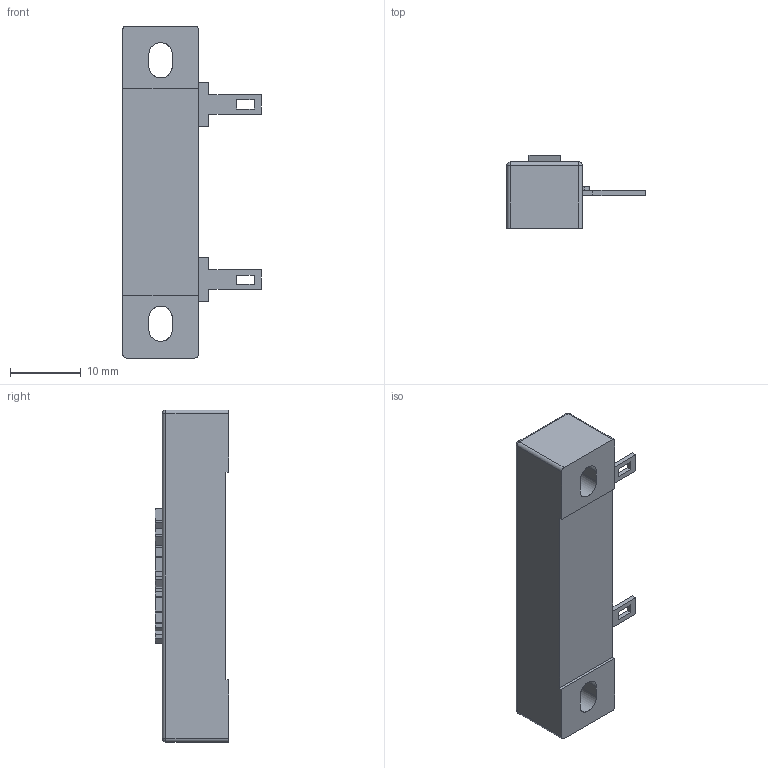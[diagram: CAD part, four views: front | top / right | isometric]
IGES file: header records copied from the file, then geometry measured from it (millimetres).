
Start section: SolidWorks IGES file using analytic representation for surfaces
Global section: file name: D:\X - Arquivos\PROEX\Empresas\P11 - METALTEX\01 - Produtos\IGES\7ª remessa\2ª etapa\SM2125.IGS; native system: SolidWorks 2012; preprocessor: SolidWorks 2012; author: Usuario; date: 190912.140628; units: millimetre
Bounding box: 19.6 x 10.4 x 47 mm (x, y, z)
Surface area: 2724.4 mm2 (no closed solid volume)
Topology: 0 solids, 0 shells, 174 faces, 1212 edges, 1208 vertices
Faces by surface type: bspline 146, revolution 28
